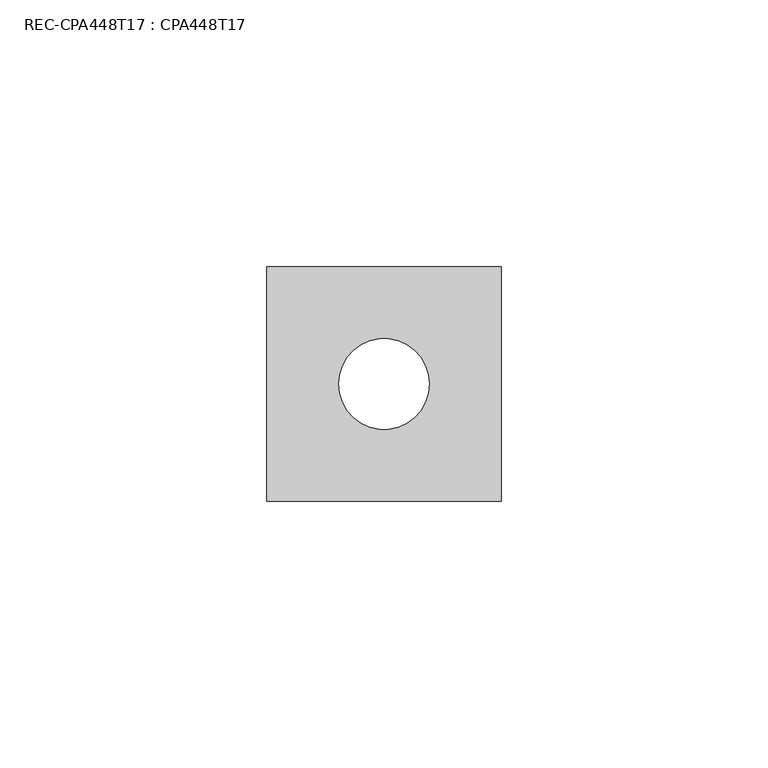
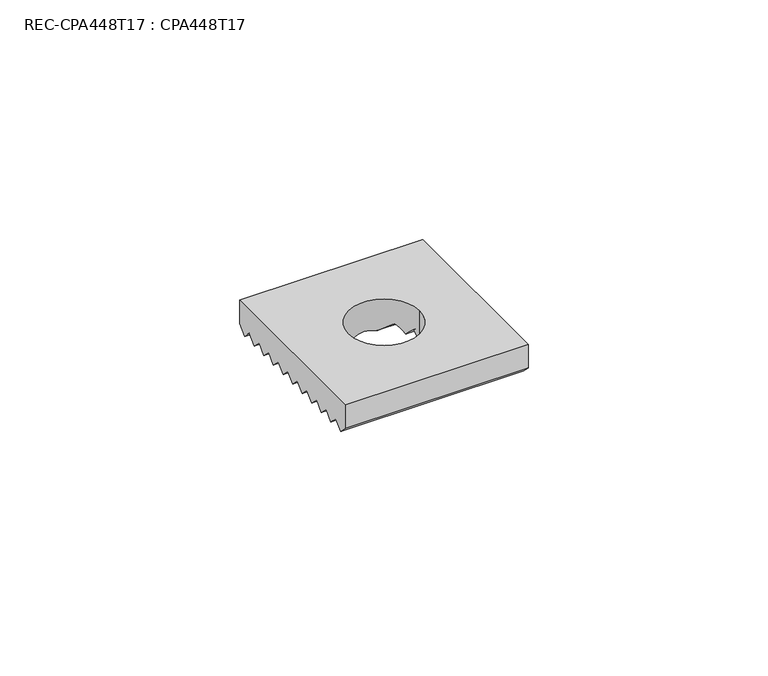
"""IFC4 building model written with IfcOpenShell, lengths in millimetres: fastener geometry, REC-CPA448T17 : CPA448T17."""

import ifcopenshell
import ifcopenshell.guid

model = None  # the IFC model being written
_history = None  # IfcOwnerHistory: only IFC2X3 demands one
_inside = {}  # id of a spatial element -> (the spatial element, [elements in it])
_under = {}  # id of a project, library or spatial element -> (it, [spatial elements below it])
_declared = {}  # id of a project -> (the project, [libraries it declares])
_typed = {}  # id of a type object -> (the type object, [elements of that type])
_made_of = {}  # id of a material, layer set ... -> (it, [elements and type objects made of it])


def new_model(schema):
    """Start an empty IFC model of exactly this schema.

    Asked for "IFC4X3", IfcOpenShell would pick the latest addendum, in which some entities
    have other attributes; the version numbers below select the first issue.
    IFC2X3 requires an IfcOwnerHistory on every rooted entity: one is made here for all.
    """
    global model, _history
    if schema == "IFC4X3":
        model = ifcopenshell.file(schema_version=(4, 3, 0, 0))
    else:
        model = ifcopenshell.file(schema=schema)
    _inside.clear()
    _under.clear()
    _declared.clear()
    _typed.clear()
    _made_of.clear()
    _history = None
    if model.schema == "IFC2X3":
        org = make("IfcOrganization", Name="unknown")
        user = make(
            "IfcPersonAndOrganization",
            ThePerson=make("IfcPerson", FamilyName="unknown"),
            TheOrganization=org,
        )
        app = make(
            "IfcApplication",
            ApplicationDeveloper=org,
            Version="unknown",
            ApplicationFullName="unknown",
            ApplicationIdentifier="unknown",
        )
        _history = make(
            "IfcOwnerHistory",
            OwningUser=user,
            OwningApplication=app,
            ChangeAction="ADDED",
            CreationDate=0,
        )
    return model


def make(cls, **values):
    """One entity of the class cls with the attributes given. An attribute that is None is left unset."""
    return model.create_entity(
        cls, **{name: value for name, value in values.items() if value is not None}
    )


def rooted(cls, **values):
    """An entity with a GlobalId (a new one), such as an element, a storey or a relation."""
    return make(cls, GlobalId=ifcopenshell.guid.new(), OwnerHistory=_history, **values)


def si_unit(unit_type, name, prefix=None):
    """IfcSIUnit, for example si_unit("LENGTHUNIT", "METRE", prefix="MILLI")."""
    return make("IfcSIUnit", UnitType=unit_type, Prefix=prefix, Name=name)


def assignment(units):
    """IfcUnitAssignment: the units of a project."""
    return None if units is None else make("IfcUnitAssignment", Units=units)


def point(xyz):
    """IfcCartesianPoint."""
    return None if xyz is None else make("IfcCartesianPoint", Coordinates=xyz)


def direction(xyz):
    """IfcDirection."""
    return None if xyz is None else make("IfcDirection", DirectionRatios=xyz)


def frame(location, z_axis=None, x_axis=None):
    """IfcAxis2Placement3D, a coordinate frame: its origin and axes. An axis left out is left unset."""
    return make(
        "IfcAxis2Placement3D",
        Location=point(location),
        Axis=direction(z_axis),
        RefDirection=direction(x_axis),
    )


def origin():
    """The frame at (0, 0, 0) with its axes left unset."""
    return frame((0.0, 0.0, 0.0))


def place(relative_to, where):
    """IfcLocalPlacement: puts the frame where relative to a parent placement (None: the world)."""
    return make(
        "IfcLocalPlacement", PlacementRelTo=relative_to, RelativePlacement=where
    )


def context(
    kind, dimensions, precision=None, world=None, true_north=None, identifier=None
):
    """IfcGeometricRepresentationContext, for example the 3D "Model" context."""
    return make(
        "IfcGeometricRepresentationContext",
        ContextIdentifier=identifier,
        ContextType=kind,
        CoordinateSpaceDimension=dimensions,
        Precision=precision,
        WorldCoordinateSystem=world,
        TrueNorth=true_north,
    )


def project(units=None, contexts=None):
    """IfcProject with its units and contexts."""
    return rooted(
        "IfcProject",
        Name="project",
        RepresentationContexts=contexts,
        UnitsInContext=assignment(units),
    )


def spatial(cls, under=None, at=None, **own):
    """A site, building, storey or space (cls), placed at a placement, below another one or the project."""
    s = rooted(cls, ObjectPlacement=at, **own)
    if under is not None:
        _under.setdefault(under.id(), (under, []))[1].append(s)
    return s


def polyline(points):
    """IfcPolyline through the points."""
    return make("IfcPolyline", Points=[point(p) for p in points])


def circle_curve(where, radius):
    """IfcCircle in the frame where."""
    return make("IfcCircle", Position=where, Radius=radius)


def ellipse_curve(where, semi_axis1, semi_axis2):
    """IfcEllipse in the frame where."""
    return make(
        "IfcEllipse", Position=where, SemiAxis1=semi_axis1, SemiAxis2=semi_axis2
    )


def shape(context_of_items, identifier, shape_type, items):
    """IfcShapeRepresentation: the items that make up one representation, for example the "Body"."""
    return make(
        "IfcShapeRepresentation",
        ContextOfItems=context_of_items,
        RepresentationIdentifier=identifier,
        RepresentationType=shape_type,
        Items=items,
    )


def source(mapping_origin, context_of_items, identifier, shape_type, items):
    """IfcRepresentationMap: a shape defined once, which mapped items show again and again."""
    return make(
        "IfcRepresentationMap",
        MappingOrigin=mapping_origin,
        MappedRepresentation=shape(context_of_items, identifier, shape_type, items),
    )


def transform(
    local_origin,
    x_axis=None,
    y_axis=None,
    z_axis=None,
    scale=None,
    scale2=None,
    scale3=None,
    uniform=True,
):
    """IfcCartesianTransformationOperator3D, or its non-uniform kind. x_axis, y_axis, z_axis: its Axis1, 2, 3."""
    if uniform:
        return make(
            "IfcCartesianTransformationOperator3D",
            Axis1=direction(x_axis),
            Axis2=direction(y_axis),
            LocalOrigin=point(local_origin),
            Scale=scale,
            Axis3=direction(z_axis),
        )
    return make(
        "IfcCartesianTransformationOperator3DnonUniform",
        Axis1=direction(x_axis),
        Axis2=direction(y_axis),
        LocalOrigin=point(local_origin),
        Scale=scale,
        Axis3=direction(z_axis),
        Scale2=scale2,
        Scale3=scale3,
    )


def mapped(mapping_source, mapping_target):
    """IfcMappedItem: shows the shape of a source again, moved by a transform."""
    return make(
        "IfcMappedItem", MappingSource=mapping_source, MappingTarget=mapping_target
    )


def made_of(thing, what):
    """Note that an element or type object is made of a material, layer set ...; save() writes the relation."""
    if what is not None:
        _made_of.setdefault(what.id(), (what, []))[1].append(thing)
    return thing


def element(
    cls,
    number,
    at=None,
    inside=None,
    cuts=None,
    type_object=None,
    material=None,
    context=None,
    identifier="Body",
    shape_type=None,
    held_by="IfcProductDefinitionShape",
    body=None,
    shapes=None,
    **own,
):
    """One element of the class cls, such as IfcWall. Its Tag is "e" and its number.

    at: its placement. inside: the storey or other place that contains it. cuts: it is an
    opening in that element (IfcRelVoidsElement). A single representation is given by context,
    identifier, shape_type and body (its items); several are given by shapes. held_by: the class
    of the entity that holds the representations. save() writes the other relations.
    """
    e = rooted(cls, Tag="e%d" % number, ObjectPlacement=at, **own)
    if body is not None:
        shapes = [shape(context, identifier, shape_type, body)]
    if shapes is not None:
        e.Representation = make(held_by, Representations=shapes)
    if inside is not None:
        _inside.setdefault(inside.id(), (inside, []))[1].append(e)
    if cuts is not None:
        rooted(
            "IfcRelVoidsElement", RelatingBuildingElement=cuts, RelatedOpeningElement=e
        )
    if type_object is not None:
        _typed.setdefault(type_object.id(), (type_object, []))[1].append(e)
    return made_of(e, material)


def aggregate(whole, parts):
    """IfcRelAggregates: a whole, such as a stair, and the parts it consists of."""
    return rooted("IfcRelAggregates", RelatingObject=whole, RelatedObjects=parts)


def save(model, path):
    """Write the relations noted so far, then the file.

    IfcRelAggregates (storeys below a building ...), IfcRelContainedInSpatialStructure (elements
    in a storey), IfcRelDefinesByType, IfcRelAssociatesMaterial and IfcRelDeclares: one each for
    every whole, place, type object, material and project.
    """
    for whole, parts in _under.values():
        aggregate(whole, parts)
    for where, things in _inside.values():
        rooted(
            "IfcRelContainedInSpatialStructure",
            RelatedElements=things,
            RelatingStructure=where,
        )
    for kind, things in _typed.values():
        rooted("IfcRelDefinesByType", RelatedObjects=things, RelatingType=kind)
    for what, things in _made_of.values():
        rooted("IfcRelAssociatesMaterial", RelatedObjects=things, RelatingMaterial=what)
    for by, libraries in _declared.values():
        rooted("IfcRelDeclares", RelatingContext=by, RelatedDefinitions=libraries)
    model.write(path)


def plane_surface(at):
    """IfcPlane: the flat surface through the origin of the frame at, square to its z axis."""
    return make("IfcPlane", Position=at)


def revolved_surface(curve, axis_point, axis_direction):
    """IfcSurfaceOfRevolution: the curve turned about the line through axis_point along axis_direction."""
    return make(
        "IfcSurfaceOfRevolution",
        SweptCurve=make("IfcArbitraryOpenProfileDef", ProfileType="CURVE", Curve=curve),
        AxisPosition=make("IfcAxis1Placement", Location=point(axis_point), Axis=direction(axis_direction)),
    )


def advanced_brep(points, edges, surfaces, faces):
    """IfcAdvancedBrep: a solid bounded by faces that lie on surfaces and meet in shared edges.

    An edge is (start, end): straight between two places in points (the first is 0);
    or (start, end, curve); or (start, end, curve, False) where it runs against its curve.
    A face is (place in surfaces, loops), or (place, loops, False) where it looks against
    its surface's normal. A loop lists edges by number (the first is 1), with a minus sign
    where the edge is run from its end to its start. The first loop is the outer one.
    """
    corners = [point(p) for p in points]
    vertices = [make("IfcVertexPoint", VertexGeometry=c) for c in corners]
    made = []
    for start, end, *more in edges:
        made.append(
            make(
                "IfcEdgeCurve",
                EdgeStart=vertices[start],
                EdgeEnd=vertices[end],
                EdgeGeometry=more[0] if more else make("IfcPolyline", Points=[corners[start], corners[end]]),
                SameSense=more[1] if len(more) > 1 else True,
            )
        )
    hull = []
    for where, loops, *sense in faces:
        bounds = []
        for j, loop in enumerate(loops):
            ring = [make("IfcOrientedEdge", EdgeElement=made[abs(k) - 1], Orientation=k > 0) for k in loop]
            bounds.append(
                make(
                    "IfcFaceOuterBound" if j == 0 else "IfcFaceBound",
                    Bound=make("IfcEdgeLoop", EdgeList=ring),
                    Orientation=True,
                )
            )
        hull.append(make("IfcAdvancedFace", Bounds=bounds, FaceSurface=surfaces[where], SameSense=sense[0] if sense else True))
    return make("IfcAdvancedBrep", Outer=make("IfcClosedShell", CfsFaces=hull))


def rec_cpa448t17_cpa448t17_6e9bf98b(model_context):
    return source(origin(), model_context, "Body", "AdvancedBrep", [
        advanced_brep(
        [(22.0, -20.0, 0.0), (22.0, -18.0, 2.0), (22.0, -16.0, 0.0), (22.0, -14.0, 2.0), (22.0, -12.0, 0.0), (22.0, -10.0, 2.0), (22.0, -8.0, 0.0), (22.0, -6.0, 2.0), (22.0, -4.0, 0.0), (22.0, -2.0, 2.0), (22.0, 0.0, 0.0), (22.0, 2.0, 2.0), (22.0, 4.0, 0.0), (22.0, 6.0, 2.0), (22.0, 8.0, 0.0), (22.0, 10.0, 2.0), (22.0, 12.0, 0.0), (22.0, 14.0, 2.0), (22.0, 16.0, 0.0), (22.0, 18.0, 2.0), (22.0, 20.0, 0.0), (22.0, 22.0, 2.0), (22.0, 22.0, 8.0), (22.0, -22.0, 8.0), (22.0, -22.0, 2.0), (-22.0, -20.0, 0.0), (-22.0, -22.0, 2.0), (-22.0, -22.0, 8.0), (-22.0, 22.0, 8.0), (-22.0, 22.0, 2.0), (-22.0, 20.0, 0.0), (-22.0, 18.0, 2.0), (-22.0, 16.0, 0.0), (-22.0, 14.0, 2.0), (-22.0, 12.0, 0.0), (-22.0, 10.0, 2.0), (-22.0, 8.0, 0.0), (-22.0, 6.0, 2.0), (-22.0, 4.0, 0.0), (-22.0, 2.0, 2.0), (-22.0, 0.0, 0.0), (-22.0, -2.0, 2.0), (-22.0, -4.0, 0.0), (-22.0, -6.0, 2.0), (-22.0, -8.0, 0.0), (-22.0, -10.0, 2.0), (-22.0, -12.0, 0.0), (-22.0, -14.0, 2.0), (-22.0, -16.0, 0.0), (-22.0, -18.0, 2.0), (8.5, 0.0, 8.0), (-8.5, 0.0, 8.0), (2.8722813, 8.0, 0.0), (-2.8722813, 8.0, 0.0), (-6.0207973, 6.0, 2.0), (6.0207973, 6.0, 2.0), (-7.5, 4.0, 0.0), (7.5, 4.0, 0.0), (-8.2613558, 2.0, 2.0), (8.2613558, 2.0, 2.0), (-8.5, 0.0, 0.0), (8.5, 0.0, 0.0), (-8.2613558, -2.0, 2.0), (8.2613558, -2.0, 2.0), (-7.5, -4.0, 0.0), (7.5, -4.0, 0.0), (-6.0207973, -6.0, 2.0), (6.0207973, -6.0, 2.0), (-2.8722813, -8.0, 0.0), (2.8722813, -8.0, 0.0)],
        [
            (0, 1),
            (1, 2),
            (2, 3),
            (3, 4),
            (4, 5),
            (5, 6),
            (6, 7),
            (7, 8),
            (8, 9),
            (9, 10),
            (10, 11),
            (11, 12),
            (12, 13),
            (13, 14),
            (14, 15),
            (15, 16),
            (16, 17),
            (17, 18),
            (18, 19),
            (19, 20),
            (20, 21),
            (21, 22),
            (22, 23),
            (23, 24),
            (24, 0),
            (25, 26),
            (26, 27),
            (27, 28),
            (28, 29),
            (29, 30),
            (30, 31),
            (31, 32),
            (32, 33),
            (33, 34),
            (34, 35),
            (35, 36),
            (36, 37),
            (37, 38),
            (38, 39),
            (39, 40),
            (40, 41),
            (41, 42),
            (42, 43),
            (43, 44),
            (44, 45),
            (45, 46),
            (46, 47),
            (47, 48),
            (48, 49),
            (49, 25),
            (24, 26),
            (25, 0),
            (23, 27),
            (22, 28),
            (50, 51, circle_curve(frame((0.0, 0.0, 8.0), z_axis=(0.0, 0.0, -1.0), x_axis=(1.0, 0.0, 0.0)), 8.5)),
            (51, 50, circle_curve(frame((0.0, 0.0, 8.0), z_axis=(0.0, 0.0, -1.0), x_axis=(1.0, 0.0, 0.0)), 8.5)),
            (21, 29),
            (20, 30),
            (19, 31),
            (18, 32),
            (17, 33),
            (16, 34),
            (15, 35),
            (14, 52),
            (52, 53, ellipse_curve(frame((0.0, 0.0, -8.0), z_axis=(0.0, -0.707106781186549, 0.707106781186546), x_axis=(0.0, 0.707106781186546, 0.707106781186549)), 12.0208153, 8.5)),
            (53, 36),
            (53, 54, ellipse_curve(frame((0.0, 0.0, 8.0), z_axis=(0.0, 0.707106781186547, 0.7071067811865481), x_axis=(0.0, -0.7071067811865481, 0.7071067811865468)), 12.0208153, 8.5)),
            (54, 37),
            (13, 55),
            (55, 52, ellipse_curve(frame((0.0, 0.0, 8.0), z_axis=(0.0, 0.707106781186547, 0.7071067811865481), x_axis=(0.0, -0.7071067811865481, 0.7071067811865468)), 12.0208153, 8.5)),
            (54, 56, ellipse_curve(frame((0.0, 0.0, -4.0), z_axis=(0.0, -0.7071067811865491, 0.707106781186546), x_axis=(0.0, 0.707106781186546, 0.7071067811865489)), 12.0208153, 8.5)),
            (56, 38),
            (12, 57),
            (57, 55, ellipse_curve(frame((0.0, 0.0, -4.0), z_axis=(0.0, -0.7071067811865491, 0.707106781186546), x_axis=(0.0, 0.707106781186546, 0.7071067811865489)), 12.0208153, 8.5)),
            (56, 58, ellipse_curve(frame((0.0, 0.0, 4.0), z_axis=(0.0, 0.707106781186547, 0.707106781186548), x_axis=(0.0, -0.707106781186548, 0.7071067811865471)), 12.0208153, 8.5)),
            (58, 39),
            (11, 59),
            (59, 57, ellipse_curve(frame((0.0, 0.0, 4.0), z_axis=(0.0, 0.707106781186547, 0.707106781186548), x_axis=(0.0, -0.707106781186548, 0.7071067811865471)), 12.0208153, 8.5)),
            (58, 60, ellipse_curve(frame((0.0, 0.0, 0.0), z_axis=(0.0, -0.7071067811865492, 0.7071067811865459), x_axis=(0.0, 0.707106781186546, 0.707106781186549)), 12.0208153, 8.5)),
            (60, 40),
            (10, 61),
            (61, 59, ellipse_curve(frame((0.0, 0.0, 0.0), z_axis=(0.0, -0.7071067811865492, 0.7071067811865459), x_axis=(0.0, 0.707106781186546, 0.707106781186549)), 12.0208153, 8.5)),
            (60, 62, ellipse_curve(frame((0.0, 0.0, 0.0), z_axis=(0.0, 0.707106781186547, 0.7071067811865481), x_axis=(0.0, -0.7071067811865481, 0.7071067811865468)), 12.0208153, 8.5)),
            (62, 41),
            (9, 63),
            (63, 61, ellipse_curve(frame((0.0, 0.0, 0.0), z_axis=(0.0, 0.707106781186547, 0.7071067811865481), x_axis=(0.0, -0.7071067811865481, 0.7071067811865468)), 12.0208153, 8.5)),
            (62, 64, ellipse_curve(frame((0.0, 0.0, 4.0), z_axis=(0.0, -0.7071067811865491, 0.707106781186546), x_axis=(0.0, 0.707106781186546, 0.7071067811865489)), 12.0208153, 8.5)),
            (64, 42),
            (8, 65),
            (65, 63, ellipse_curve(frame((0.0, 0.0, 4.0), z_axis=(0.0, -0.7071067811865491, 0.707106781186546), x_axis=(0.0, 0.707106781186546, 0.7071067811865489)), 12.0208153, 8.5)),
            (64, 66, ellipse_curve(frame((0.0, 0.0, -4.0), z_axis=(0.0, 0.7071067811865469, 0.7071067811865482), x_axis=(0.0, -0.7071067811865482, 0.7071067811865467)), 12.0208153, 8.5)),
            (66, 43),
            (7, 67),
            (67, 65, ellipse_curve(frame((0.0, 0.0, -4.0), z_axis=(0.0, 0.7071067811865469, 0.7071067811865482), x_axis=(0.0, -0.7071067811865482, 0.7071067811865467)), 12.0208153, 8.5)),
            (66, 68, ellipse_curve(frame((0.0, 0.0, 8.0), z_axis=(0.0, -0.7071067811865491, 0.7071067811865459), x_axis=(0.0, 0.7071067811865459, 0.707106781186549)), 12.0208153, 8.5)),
            (68, 44),
            (6, 69),
            (69, 67, ellipse_curve(frame((0.0, 0.0, 8.0), z_axis=(0.0, -0.7071067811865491, 0.7071067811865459), x_axis=(0.0, 0.7071067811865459, 0.707106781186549)), 12.0208153, 8.5)),
            (5, 45),
            (68, 69, ellipse_curve(frame((0.0, 0.0, -8.0), z_axis=(0.0, 0.7071067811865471, 0.707106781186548), x_axis=(0.0, -0.707106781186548, 0.707106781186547)), 12.0208153, 8.5)),
            (4, 46),
            (3, 47),
            (2, 48),
            (1, 49),
            (51, 60),
            (61, 50),
        ],
        [
            plane_surface(frame((22.0, -22.0, 2.0), z_axis=(1.0, 0.0, 0.0), x_axis=(0.0, -0.7071067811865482, 0.7071067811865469))),
            plane_surface(frame((-22.0, -22.0, 2.0), z_axis=(-1.0, 0.0, 0.0), x_axis=(0.0, 0.7071067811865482, -0.7071067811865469))),
            plane_surface(frame((22.0, -20.0, 0.0), z_axis=(0.0, -0.7071067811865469, -0.7071067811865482), x_axis=(-1.0, 0.0, 0.0))),
            plane_surface(frame((22.0, -22.0, 2.0), z_axis=(0.0, -1.0, 0.0), x_axis=(-1.0, 0.0, 0.0))),
            plane_surface(frame((22.0, -22.0, 8.0), z_axis=(0.0, 0.0, 1.0), x_axis=(-1.0, 0.0, 0.0))),
            plane_surface(frame((22.0, 22.0, 8.0), z_axis=(0.0, 1.0, 0.0), x_axis=(-1.0, 0.0, 0.0))),
            plane_surface(frame((22.0, 22.0, 2.0), z_axis=(0.0, 0.7071067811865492, -0.7071067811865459), x_axis=(-1.0, 0.0, 0.0))),
            plane_surface(frame((22.0, 20.0, 0.0), z_axis=(0.0, -0.7071067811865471, -0.707106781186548), x_axis=(-1.0, 0.0, 0.0))),
            plane_surface(frame((22.0, 18.0, 2.0), z_axis=(0.0, 0.7071067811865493, -0.7071067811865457), x_axis=(-1.0, 0.0, 0.0))),
            plane_surface(frame((22.0, 16.0, 0.0), z_axis=(0.0, -0.7071067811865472, -0.7071067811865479), x_axis=(-1.0, 0.0, 0.0))),
            plane_surface(frame((22.0, 14.0, 2.0), z_axis=(0.0, 0.7071067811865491, -0.7071067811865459), x_axis=(-1.0, 0.0, 0.0))),
            plane_surface(frame((22.0, 12.0, 0.0), z_axis=(0.0, -0.7071067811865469, -0.7071067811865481), x_axis=(-1.0, 0.0, 0.0))),
            plane_surface(frame((22.0, 10.0, 2.0), z_axis=(0.0, 0.707106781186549, -0.707106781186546), x_axis=(-1.0, 0.0, 0.0))),
            plane_surface(frame((22.0, 8.0, 0.0), z_axis=(0.0, -0.707106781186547, -0.7071067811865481), x_axis=(-1.0, 0.0, 0.0))),
            plane_surface(frame((22.0, 6.0, 2.0), z_axis=(0.0, 0.7071067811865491, -0.707106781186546), x_axis=(-1.0, 0.0, 0.0))),
            plane_surface(frame((22.0, 4.0, 0.0), z_axis=(0.0, -0.707106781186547, -0.707106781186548), x_axis=(-1.0, 0.0, 0.0))),
            plane_surface(frame((22.0, 2.0, 2.0), z_axis=(0.0, 0.7071067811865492, -0.7071067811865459), x_axis=(-1.0, 0.0, 0.0))),
            plane_surface(frame((22.0, 0.0, 0.0), z_axis=(0.0, -0.707106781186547, -0.7071067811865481), x_axis=(-1.0, 0.0, 0.0))),
            plane_surface(frame((22.0, -2.0, 2.0), z_axis=(0.0, 0.7071067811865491, -0.707106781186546), x_axis=(-1.0, 0.0, 0.0))),
            plane_surface(frame((22.0, -4.0, 0.0), z_axis=(0.0, -0.7071067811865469, -0.7071067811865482), x_axis=(-1.0, 0.0, 0.0))),
            plane_surface(frame((22.0, -6.0, 2.0), z_axis=(0.0, 0.7071067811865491, -0.7071067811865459), x_axis=(-1.0, 0.0, 0.0))),
            plane_surface(frame((22.0, -8.0, 0.0), z_axis=(0.0, -0.7071067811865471, -0.707106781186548), x_axis=(-1.0, 0.0, 0.0))),
            plane_surface(frame((22.0, -10.0, 2.0), z_axis=(0.0, 0.7071067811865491, -0.707106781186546), x_axis=(-1.0, 0.0, 0.0))),
            plane_surface(frame((22.0, -12.0, 0.0), z_axis=(0.0, -0.7071067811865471, -0.707106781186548), x_axis=(-1.0, 0.0, 0.0))),
            plane_surface(frame((22.0, -14.0, 2.0), z_axis=(0.0, 0.7071067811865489, -0.7071067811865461), x_axis=(-1.0, 0.0, 0.0))),
            plane_surface(frame((22.0, -16.0, 0.0), z_axis=(0.0, -0.707106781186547, -0.7071067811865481), x_axis=(-1.0, 0.0, 0.0))),
            plane_surface(frame((22.0, -18.0, 2.0), z_axis=(0.0, 0.707106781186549, -0.7071067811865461), x_axis=(-1.0, 0.0, 0.0))),
            revolved_surface(polyline([(8.5, 0.0, 16.50000001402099), (8.5, 0.0, -16.50000001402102)]), (0.0, 0.0, -8.621874), (0.0, 0.0, 1.0)),
            revolved_surface(polyline([(8.5, 0.0, 16.50000001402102), (8.5, 0.0, -16.500000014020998)]), (0.0, 0.0, -8.621874), (0.0, 0.0, 1.0)),
        ],
        [
            (0, [[1, 2, 3, 4, 5, 6, 7, 8, 9, 10, 11, 12, 13, 14, 15, 16, 17, 18, 19, 20, 21, 22, 23, 24, 25]]),
            (1, [[26, 27, 28, 29, 30, 31, 32, 33, 34, 35, 36, 37, 38, 39, 40, 41, 42, 43, 44, 45, 46, 47, 48, 49, 50]]),
            (2, [[51, -26, 52, -25]]),
            (3, [[53, -27, -51, -24]]),
            (4, [[54, -28, -53, -23], [55, 56]]),
            (5, [[57, -29, -54, -22]]),
            (6, [[58, -30, -57, -21]]),
            (7, [[59, -31, -58, -20]]),
            (8, [[60, -32, -59, -19]]),
            (9, [[61, -33, -60, -18]]),
            (10, [[62, -34, -61, -17]]),
            (11, [[63, -35, -62, -16]]),
            (12, [[64, 65, 66, -36, -63, -15]]),
            (13, [[-66, 67, 68, -37]]),
            (13, [[69, 70, -64, -14]]),
            (14, [[-68, 71, 72, -38]]),
            (14, [[73, 74, -69, -13]]),
            (15, [[-72, 75, 76, -39]]),
            (15, [[77, 78, -73, -12]]),
            (16, [[-76, 79, 80, -40]]),
            (16, [[81, 82, -77, -11]]),
            (17, [[-80, 83, 84, -41]]),
            (17, [[85, 86, -81, -10]]),
            (18, [[-84, 87, 88, -42]]),
            (18, [[89, 90, -85, -9]]),
            (19, [[-88, 91, 92, -43]]),
            (19, [[93, 94, -89, -8]]),
            (20, [[-92, 95, 96, -44]]),
            (20, [[97, 98, -93, -7]]),
            (21, [[99, -45, -96, 100, -97, -6]]),
            (22, [[101, -46, -99, -5]]),
            (23, [[102, -47, -101, -4]]),
            (24, [[103, -48, -102, -3]]),
            (25, [[104, -49, -103, -2]]),
            (26, [[-52, -50, -104, -1]]),
            (27, [[-56, 105, -79, -75, -71, -67, -65, -70, -74, -78, -82, 106]]),
            (28, [[-86, -90, -94, -98, -100, -95, -91, -87, -83, -105, -55, -106]]),
        ],
    ),
    ])


if __name__ == "__main__":
    model = new_model("IFC4")
    model_context = context("Model", 3, world=origin())
    ifc_project = project(units=[si_unit("LENGTHUNIT", "METRE", prefix="MILLI")], contexts=[model_context])
    site = spatial("IfcSite", under=ifc_project)
    building = spatial("IfcBuilding", under=site)
    placement = place(None, origin())
    rec_cpa448t17_cpa448t17_shape = rec_cpa448t17_cpa448t17_6e9bf98b(model_context)
    element("IfcFastener", 1, ObjectType="REC-CPA448T17 : CPA448T17", at=placement, inside=building, context=model_context, shape_type="MappedRepresentation", body=[
        mapped(rec_cpa448t17_cpa448t17_shape, transform((0.0, 0.0, 0.0), x_axis=(1.0, 0.0, 0.0), y_axis=(0.0, 1.0, 0.0), z_axis=(0.0, 0.0, 1.0))),
    ])
    save(model, "model.ifc")
